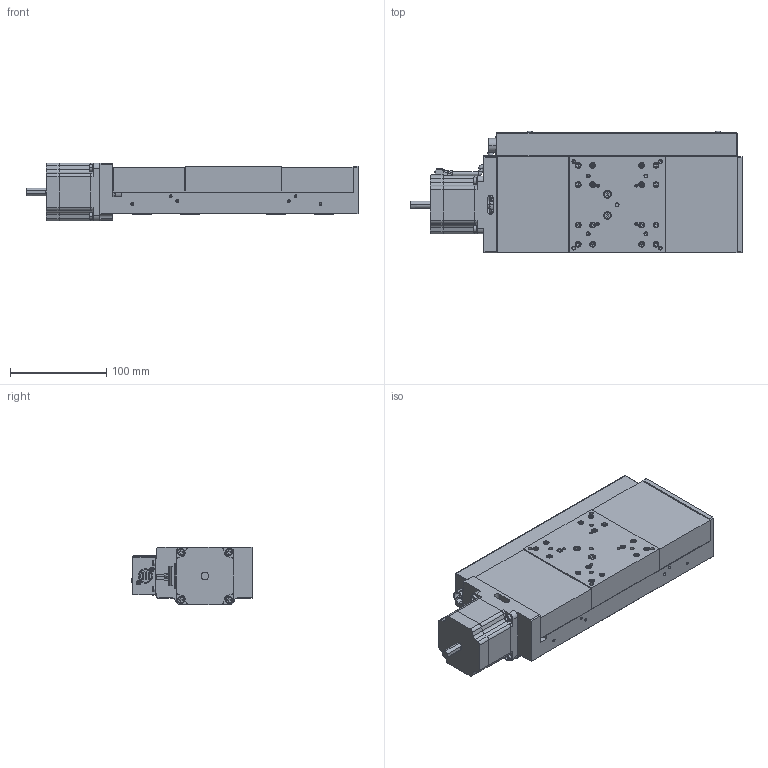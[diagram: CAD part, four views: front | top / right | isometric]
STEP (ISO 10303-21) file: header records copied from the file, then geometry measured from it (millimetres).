
FILE_DESCRIPTION (( 'STEP AP203' ), '1' );
FILE_NAME ('XA10A-L101-R.STEP', '2019-02-25T05:18:42', ( '' ), ( '' ), 'SwSTEP 2.0', 'SolidWorks 2018', '' );
FILE_SCHEMA (( 'CONFIG_CONTROL_DESIGN' ));
Length unit declared in the file: millimetre
Products named in the file (6): bellows; XA10A-L101-R; bellows-Part-2; bellows-Part-1; table; base
Assembly tree (5 placements, depth 3):
  XA10A-L101-R
    bellows
      bellows-Part-1
      bellows-Part-2
    table
    base
Bounding box: 345.5 x 126.89 x 60 mm (x, y, z)
Volume: 1197950.3 mm3; surface area: 271782.4 mm2
Topology: 4 solids, 6 shells, 2552 faces, 6171 edges, 3709 vertices
Faces by surface type: plane 1481, cylinder 625, cone 388, bspline 20, sphere 20, torus 18
Entity records: 74247 total; most frequent: CARTESIAN_POINT 13455, DIRECTION 13084, ORIENTED_EDGE 12054, EDGE_CURVE 6027, AXIS2_PLACEMENT_3D 4616, LINE 3852, VECTOR 3852, VERTEX_POINT 3709
